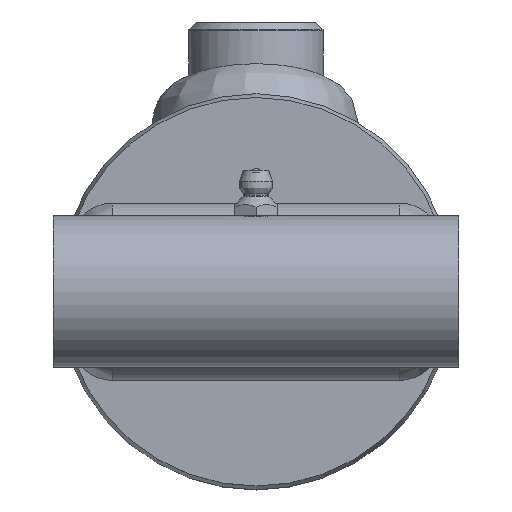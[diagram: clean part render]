
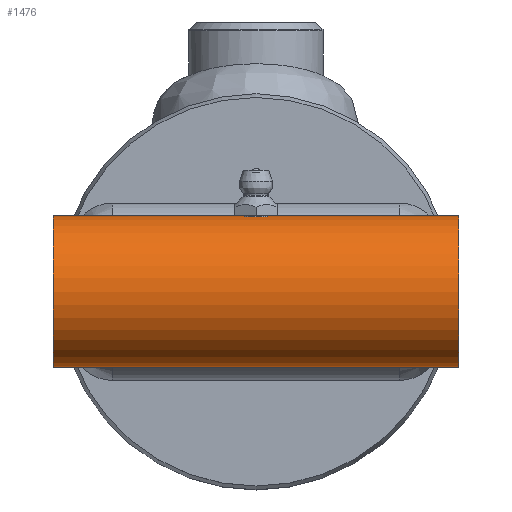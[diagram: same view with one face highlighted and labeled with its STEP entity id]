
A CAD part, top view. The second image highlights one B-rep face of the part: STEP entity #1476.
In plain terms, the highlighted cylindrical face has radius 14.287 mm (diameter 28.575 mm), a full revolution.
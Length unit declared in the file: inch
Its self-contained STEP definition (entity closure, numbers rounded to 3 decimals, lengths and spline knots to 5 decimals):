
#1311=CARTESIAN_POINT('',(-0.1065,0.5625,0.));
#1312=VERTEX_POINT('',#1311);
#1313=CARTESIAN_POINT('',(0.1065,0.5625,0.));
#1314=VERTEX_POINT('',#1313);
#1315=CARTESIAN_POINT('',(-0.1065,0.5625,0.));
#1316=CARTESIAN_POINT('',(-0.1065,0.5625,-0.01341));
#1317=CARTESIAN_POINT('',(-0.10381,0.56197,-0.02769));
#1318=CARTESIAN_POINT('',(-0.09294,0.56006,-0.05392));
#1319=CARTESIAN_POINT('',(-0.08474,0.55871,-0.06587));
#1320=CARTESIAN_POINT('',(-0.06587,0.55616,-0.08474));
#1321=CARTESIAN_POINT('',(-0.05392,0.5548,-0.09294));
#1322=CARTESIAN_POINT('',(-0.02769,0.55286,-0.10381));
#1323=CARTESIAN_POINT('',(-0.01341,0.55233,-0.1065));
#1324=CARTESIAN_POINT('',(0.01341,0.55233,-0.1065));
#1325=CARTESIAN_POINT('',(0.02769,0.55286,-0.10381));
#1326=CARTESIAN_POINT('',(0.05392,0.5548,-0.09294));
#1327=CARTESIAN_POINT('',(0.06587,0.55616,-0.08474));
#1328=CARTESIAN_POINT('',(0.08474,0.55871,-0.06587));
#1329=CARTESIAN_POINT('',(0.09294,0.56006,-0.05392));
#1330=CARTESIAN_POINT('',(0.10381,0.56197,-0.02769));
#1331=CARTESIAN_POINT('',(0.1065,0.5625,-0.01341));
#1332=CARTESIAN_POINT('',(0.1065,0.5625,0.));
#1333=B_SPLINE_CURVE_WITH_KNOTS('',3,(#1315,#1316,#1317,#1318,#1319,#1320,#1321,#1322,#1323,#1324,#1325,#1326,#1327,#1328,#1329,#1330,#1331,#1332),.UNSPECIFIED.,.F.,.U.,(4,2,2,2,2,2,2,2,4),(0.40865,0.51081,0.61297,0.71514,0.81731,0.91947,1.02164,1.1238,1.22596),.UNSPECIFIED.);
#1334=EDGE_CURVE('',#1312,#1314,#1333,.T.);
#1336=CARTESIAN_POINT('',(0.1065,0.5625,0.));
#1337=CARTESIAN_POINT('',(0.1065,0.5625,0.01341));
#1338=CARTESIAN_POINT('',(0.10381,0.56197,0.02769));
#1339=CARTESIAN_POINT('',(0.09294,0.56006,0.05392));
#1340=CARTESIAN_POINT('',(0.08474,0.55871,0.06587));
#1341=CARTESIAN_POINT('',(0.06587,0.55616,0.08474));
#1342=CARTESIAN_POINT('',(0.05392,0.5548,0.09294));
#1343=CARTESIAN_POINT('',(0.02769,0.55286,0.10381));
#1344=CARTESIAN_POINT('',(0.01341,0.55233,0.1065));
#1345=CARTESIAN_POINT('',(0.0,0.55233,0.1065));
#1346=CARTESIAN_POINT('',(-0.01341,0.55233,0.1065));
#1347=CARTESIAN_POINT('',(-0.02769,0.55286,0.10381));
#1348=CARTESIAN_POINT('',(-0.05392,0.5548,0.09294));
#1349=CARTESIAN_POINT('',(-0.06587,0.55616,0.08474));
#1350=CARTESIAN_POINT('',(-0.08474,0.55871,0.06587));
#1351=CARTESIAN_POINT('',(-0.09294,0.56006,0.05392));
#1352=CARTESIAN_POINT('',(-0.10381,0.56197,0.02769));
#1353=CARTESIAN_POINT('',(-0.1065,0.5625,0.01341));
#1354=CARTESIAN_POINT('',(-0.1065,0.5625,0.));
#1355=B_SPLINE_CURVE_WITH_KNOTS('',3,(#1336,#1337,#1338,#1339,#1340,#1341,#1342,#1343,#1344,#1345,#1346,#1347,#1348,#1349,#1350,#1351,#1352,#1353,#1354),.UNSPECIFIED.,.F.,.U.,(4,2,2,2,3,2,2,2,4),(1.22596,1.32812,1.43028,1.53244,1.63461,1.73678,1.83894,1.9411,2.04326),.UNSPECIFIED.);
#1356=EDGE_CURVE('',#1314,#1312,#1355,.T.);
#1438=CARTESIAN_POINT('',(-1.5,0.5625,0.));
#1439=VERTEX_POINT('',#1438);
#1440=CARTESIAN_POINT('',(-1.5,0.0,0.0));
#1441=DIRECTION('',(1.0,0.0,0.0));
#1442=DIRECTION('',(0.0,-1.0,0.0));
#1443=AXIS2_PLACEMENT_3D('',#1440,#1441,#1442);
#1444=CIRCLE('',#1443,0.5625);
#1445=EDGE_CURVE('',#1439,#1439,#1444,.T.);
#1453=CARTESIAN_POINT('',(0.0,0.0,0.0));
#1454=DIRECTION('',(1.0,0.0,0.0));
#1455=DIRECTION('',(0.0,-1.0,0.0));
#1456=AXIS2_PLACEMENT_3D('',#1453,#1454,#1455);
#1457=CYLINDRICAL_SURFACE('',#1456,0.5625);
#1458=ORIENTED_EDGE('',*,*,#1445,.T.);
#1459=EDGE_LOOP('',(#1458));
#1460=FACE_OUTER_BOUND('',#1459,.T.);
#1461=ORIENTED_EDGE('',*,*,#1334,.T.);
#1462=ORIENTED_EDGE('',*,*,#1356,.T.);
#1463=EDGE_LOOP('',(#1461,#1462));
#1464=FACE_BOUND('',#1463,.T.);
#1465=CARTESIAN_POINT('',(1.5,0.5625,0.));
#1466=VERTEX_POINT('',#1465);
#1467=CARTESIAN_POINT('',(1.5,0.0,0.0));
#1468=DIRECTION('',(-1.0,0.0,0.0));
#1469=DIRECTION('',(0.0,-1.0,0.0));
#1470=AXIS2_PLACEMENT_3D('',#1467,#1468,#1469);
#1471=CIRCLE('',#1470,0.5625);
#1472=EDGE_CURVE('',#1466,#1466,#1471,.T.);
#1473=ORIENTED_EDGE('',*,*,#1472,.T.);
#1474=EDGE_LOOP('',(#1473));
#1475=FACE_BOUND('',#1474,.T.);
#1476=ADVANCED_FACE('',(#1460,#1464,#1475),#1457,.T.);
